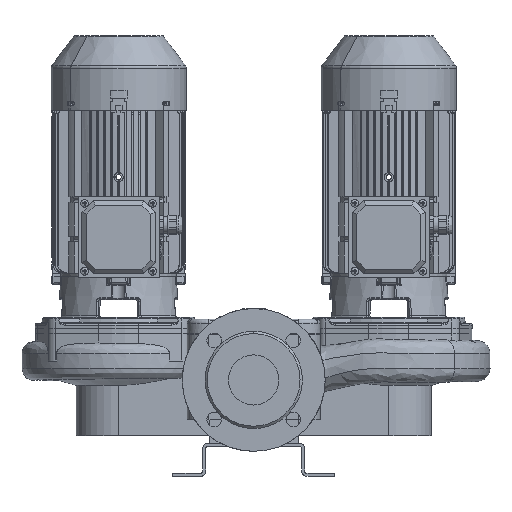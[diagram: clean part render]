
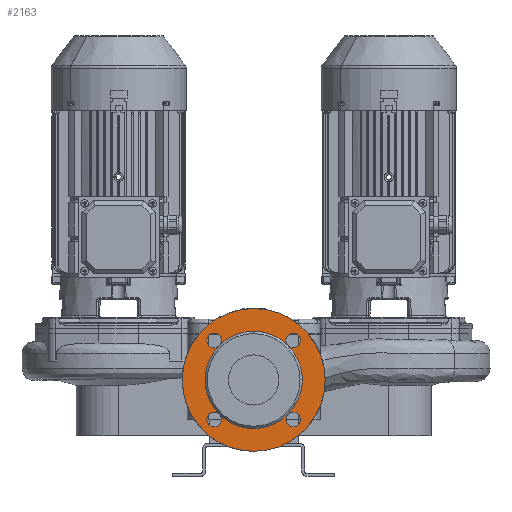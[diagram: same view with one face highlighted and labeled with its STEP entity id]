
A CAD part, front view. The second image highlights one B-rep face of the part: STEP entity #2163.
In plain terms, the highlighted planar face has unit normal (0, -1, 0) as drawn and (0, 1, 0) by its records, which use the part's own axes.
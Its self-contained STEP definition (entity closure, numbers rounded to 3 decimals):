
#2163=ADVANCED_FACE('',(#4111,#4112),#4113,.T.);
#2295=EDGE_CURVE('',#4336,#4337,#4338,.T.);
#2297=EDGE_CURVE('',#4340,#4336,#4341,.T.);
#2299=EDGE_CURVE('',#4343,#4340,#4344,.T.);
#2303=EDGE_CURVE('',#4350,#4351,#4352,.T.);
#2307=EDGE_CURVE('',#4358,#4359,#4360,.T.);
#2311=EDGE_CURVE('',#4366,#4367,#4368,.T.);
#2315=EDGE_CURVE('',#4374,#4375,#4376,.T.);
#2319=EDGE_CURVE('',#4382,#4383,#4384,.T.);
#2445=EDGE_CURVE('',#4383,#4382,#4576,.T.);
#2449=EDGE_CURVE('',#4340,#4374,#4580,.T.);
#2451=EDGE_CURVE('',#4375,#4340,#4582,.T.);
#2453=EDGE_CURVE('',#4336,#4366,#4584,.T.);
#2455=EDGE_CURVE('',#4367,#4336,#4586,.T.);
#2457=EDGE_CURVE('',#4588,#4358,#4589,.T.);
#2459=EDGE_CURVE('',#4359,#4588,#4591,.T.);
#2461=EDGE_CURVE('',#4593,#4350,#4594,.T.);
#2463=EDGE_CURVE('',#4351,#4593,#4596,.T.);
#2465=EDGE_CURVE('',#4337,#4588,#4598,.T.);
#2467=EDGE_CURVE('',#4588,#4593,#4600,.T.);
#2469=EDGE_CURVE('',#4593,#4343,#4602,.T.);
#4111=FACE_OUTER_BOUND('',#10466,.T.);
#4112=FACE_BOUND('',#10467,.T.);
#4113=PLANE('',#10468);
#4336=VERTEX_POINT('',#11373);
#4337=VERTEX_POINT('',#11374);
#4338=CIRCLE('',#11375,63.0);
#4340=VERTEX_POINT('',#11378);
#4341=CIRCLE('',#11379,63.0);
#4343=VERTEX_POINT('',#11382);
#4344=CIRCLE('',#11383,63.0);
#4350=VERTEX_POINT('',#11391);
#4351=VERTEX_POINT('',#11392);
#4352=CIRCLE('',#11393,9.5);
#4358=VERTEX_POINT('',#11401);
#4359=VERTEX_POINT('',#11402);
#4360=CIRCLE('',#11403,9.5);
#4366=VERTEX_POINT('',#11411);
#4367=VERTEX_POINT('',#11412);
#4368=CIRCLE('',#11413,9.5);
#4374=VERTEX_POINT('',#11421);
#4375=VERTEX_POINT('',#11422);
#4376=CIRCLE('',#11423,9.5);
#4382=VERTEX_POINT('',#11431);
#4383=VERTEX_POINT('',#11432);
#4384=CIRCLE('',#11433,92.5);
#4576=CIRCLE('',#11757,92.5);
#4580=CIRCLE('',#11763,9.5);
#4582=CIRCLE('',#11766,9.5);
#4584=CIRCLE('',#11769,9.5);
#4586=CIRCLE('',#11772,9.5);
#4588=VERTEX_POINT('',#11775);
#4589=CIRCLE('',#11776,9.5);
#4591=CIRCLE('',#11779,9.5);
#4593=VERTEX_POINT('',#11782);
#4594=CIRCLE('',#11783,9.5);
#4596=CIRCLE('',#11786,9.5);
#4598=CIRCLE('',#11789,63.0);
#4600=CIRCLE('',#11792,63.0);
#4602=CIRCLE('',#11795,63.0);
#10466=EDGE_LOOP('',(#19348,#19349));
#10467=EDGE_LOOP('',(#19350,#19351,#19352,#19353,#19354,#19355,#19356,#19357,#19358,#19359,#19360,#19361,#19362,#19363,#19364,#19365,#19366,#19367));
#10468=AXIS2_PLACEMENT_3D('',#19368,#19369,#19370);
#11373=CARTESIAN_POINT('',(44.548,217.,20.048));
#11374=CARTESIAN_POINT('',(0.,217.0,38.5));
#11375=AXIS2_PLACEMENT_3D('',#19850,#19851,#19852);
#11378=CARTESIAN_POINT('',(44.548,217.0,-69.048));
#11379=AXIS2_PLACEMENT_3D('',#19853,#19854,#19855);
#11382=CARTESIAN_POINT('',(0.,217.0,-87.5));
#11383=AXIS2_PLACEMENT_3D('',#19856,#19857,#19858);
#11391=CARTESIAN_POINT('',(-56.624,217.0,-67.921));
#11392=CARTESIAN_POINT('',(-45.906,217.0,-83.609));
#11393=AXIS2_PLACEMENT_3D('',#19862,#19863,#19864);
#11401=CARTESIAN_POINT('',(-43.421,217.,32.124));
#11402=CARTESIAN_POINT('',(-59.109,217.,21.406));
#11403=AXIS2_PLACEMENT_3D('',#19868,#19869,#19870);
#11411=CARTESIAN_POINT('',(56.624,217.,18.921));
#11412=CARTESIAN_POINT('',(45.906,217.,34.609));
#11413=AXIS2_PLACEMENT_3D('',#19874,#19875,#19876);
#11421=CARTESIAN_POINT('',(43.421,217.0,-81.124));
#11422=CARTESIAN_POINT('',(59.109,217.0,-70.406));
#11423=AXIS2_PLACEMENT_3D('',#19880,#19881,#19882);
#11431=CARTESIAN_POINT('',(0.,217.0,-117.0));
#11432=CARTESIAN_POINT('',(0.,217.0,68.0));
#11433=AXIS2_PLACEMENT_3D('',#19886,#19887,#19888);
#11757=AXIS2_PLACEMENT_3D('',#20022,#20023,#20024);
#11763=AXIS2_PLACEMENT_3D('',#20028,#20029,#20030);
#11766=AXIS2_PLACEMENT_3D('',#20031,#20032,#20033);
#11769=AXIS2_PLACEMENT_3D('',#20034,#20035,#20036);
#11772=AXIS2_PLACEMENT_3D('',#20037,#20038,#20039);
#11775=CARTESIAN_POINT('',(-44.548,217.,20.048));
#11776=AXIS2_PLACEMENT_3D('',#20040,#20041,#20042);
#11779=AXIS2_PLACEMENT_3D('',#20043,#20044,#20045);
#11782=CARTESIAN_POINT('',(-44.548,217.0,-69.048));
#11783=AXIS2_PLACEMENT_3D('',#20046,#20047,#20048);
#11786=AXIS2_PLACEMENT_3D('',#20049,#20050,#20051);
#11789=AXIS2_PLACEMENT_3D('',#20052,#20053,#20054);
#11792=AXIS2_PLACEMENT_3D('',#20055,#20056,#20057);
#11795=AXIS2_PLACEMENT_3D('',#20058,#20059,#20060);
#19348=ORIENTED_EDGE('',*,*,#2445,.F.);
#19349=ORIENTED_EDGE('',*,*,#2319,.F.);
#19350=ORIENTED_EDGE('',*,*,#2295,.T.);
#19351=ORIENTED_EDGE('',*,*,#2465,.T.);
#19352=ORIENTED_EDGE('',*,*,#2457,.T.);
#19353=ORIENTED_EDGE('',*,*,#2307,.T.);
#19354=ORIENTED_EDGE('',*,*,#2459,.T.);
#19355=ORIENTED_EDGE('',*,*,#2467,.T.);
#19356=ORIENTED_EDGE('',*,*,#2461,.T.);
#19357=ORIENTED_EDGE('',*,*,#2303,.T.);
#19358=ORIENTED_EDGE('',*,*,#2463,.T.);
#19359=ORIENTED_EDGE('',*,*,#2469,.T.);
#19360=ORIENTED_EDGE('',*,*,#2299,.T.);
#19361=ORIENTED_EDGE('',*,*,#2449,.T.);
#19362=ORIENTED_EDGE('',*,*,#2315,.T.);
#19363=ORIENTED_EDGE('',*,*,#2451,.T.);
#19364=ORIENTED_EDGE('',*,*,#2297,.T.);
#19365=ORIENTED_EDGE('',*,*,#2453,.T.);
#19366=ORIENTED_EDGE('',*,*,#2311,.T.);
#19367=ORIENTED_EDGE('',*,*,#2455,.T.);
#19368=CARTESIAN_POINT('',(0.,217.0,-102.25));
#19369=DIRECTION('',(0.0,1.0,0.0));
#19370=DIRECTION('',(0.0,0.0,1.0));
#19850=CARTESIAN_POINT('',(0.,217.0,-24.5));
#19851=DIRECTION('',(0.0,-1.0,0.0));
#19852=DIRECTION('',(0.0,0.0,-1.0));
#19853=CARTESIAN_POINT('',(0.,217.0,-24.5));
#19854=DIRECTION('',(0.0,-1.0,0.0));
#19855=DIRECTION('',(0.0,0.0,-1.0));
#19856=CARTESIAN_POINT('',(0.,217.0,-24.5));
#19857=DIRECTION('',(0.0,-1.0,0.0));
#19858=DIRECTION('',(0.0,0.0,-1.0));
#19862=CARTESIAN_POINT('',(-51.265,217.0,-75.765));
#19863=DIRECTION('',(0.0,-1.0,0.0));
#19864=DIRECTION('',(-0.564,0.0,0.826));
#19868=CARTESIAN_POINT('',(-51.265,217.,26.765));
#19869=DIRECTION('',(0.0,-1.0,0.0));
#19870=DIRECTION('',(0.826,0.0,0.564));
#19874=CARTESIAN_POINT('',(51.265,217.,26.765));
#19875=DIRECTION('',(0.0,-1.0,0.0));
#19876=DIRECTION('',(0.564,0.0,-0.826));
#19880=CARTESIAN_POINT('',(51.265,217.0,-75.765));
#19881=DIRECTION('',(0.0,-1.0,-0.0));
#19882=DIRECTION('',(-0.826,0.0,-0.564));
#19886=CARTESIAN_POINT('',(0.,217.0,-24.5));
#19887=DIRECTION('',(0.0,-1.0,0.0));
#19888=DIRECTION('',(0.0,0.0,-1.0));
#20022=CARTESIAN_POINT('',(0.,217.0,-24.5));
#20023=DIRECTION('',(0.0,-1.0,0.0));
#20024=DIRECTION('',(0.0,0.0,-1.0));
#20028=CARTESIAN_POINT('',(51.265,217.0,-75.765));
#20029=DIRECTION('',(0.0,-1.0,-0.0));
#20030=DIRECTION('',(-0.826,0.0,-0.564));
#20031=CARTESIAN_POINT('',(51.265,217.0,-75.765));
#20032=DIRECTION('',(0.0,-1.0,-0.0));
#20033=DIRECTION('',(-0.826,0.0,-0.564));
#20034=CARTESIAN_POINT('',(51.265,217.,26.765));
#20035=DIRECTION('',(0.0,-1.0,0.0));
#20036=DIRECTION('',(0.564,0.0,-0.826));
#20037=CARTESIAN_POINT('',(51.265,217.,26.765));
#20038=DIRECTION('',(0.0,-1.0,0.0));
#20039=DIRECTION('',(0.564,0.0,-0.826));
#20040=CARTESIAN_POINT('',(-51.265,217.,26.765));
#20041=DIRECTION('',(0.0,-1.0,0.0));
#20042=DIRECTION('',(0.826,0.0,0.564));
#20043=CARTESIAN_POINT('',(-51.265,217.,26.765));
#20044=DIRECTION('',(0.0,-1.0,0.0));
#20045=DIRECTION('',(0.826,0.0,0.564));
#20046=CARTESIAN_POINT('',(-51.265,217.0,-75.765));
#20047=DIRECTION('',(0.0,-1.0,0.0));
#20048=DIRECTION('',(-0.564,0.0,0.826));
#20049=CARTESIAN_POINT('',(-51.265,217.0,-75.765));
#20050=DIRECTION('',(0.0,-1.0,0.0));
#20051=DIRECTION('',(-0.564,0.0,0.826));
#20052=CARTESIAN_POINT('',(0.,217.0,-24.5));
#20053=DIRECTION('',(0.0,-1.0,0.0));
#20054=DIRECTION('',(0.0,0.0,-1.0));
#20055=CARTESIAN_POINT('',(0.,217.0,-24.5));
#20056=DIRECTION('',(0.0,-1.0,0.0));
#20057=DIRECTION('',(0.0,0.0,-1.0));
#20058=CARTESIAN_POINT('',(0.,217.0,-24.5));
#20059=DIRECTION('',(0.0,-1.0,0.0));
#20060=DIRECTION('',(0.0,0.0,-1.0));
